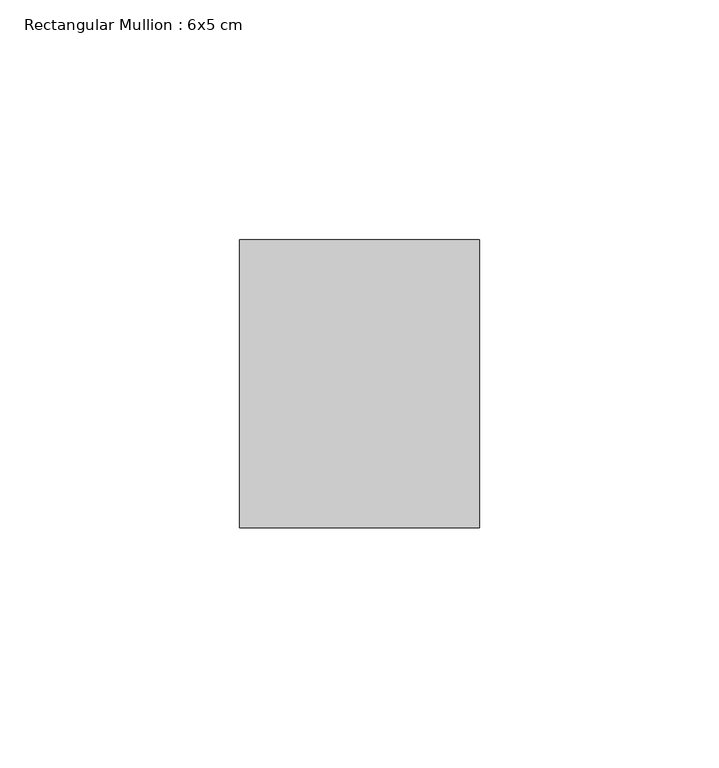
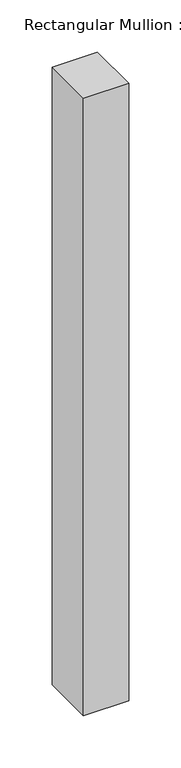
"""IFC4 building model written with IfcOpenShell, lengths in millimetres: member geometry, Rectangular Mullion : 6x5 cm."""

from ifc_helpers import new_model, si_unit, frame, origin, place, context, project, spatial, polyline, outline, extrude, source, transform, mapped, element, save


def rectangular_mullion_6x5_cm_2a4f21b8(model_context):
    return source(origin(), model_context, "Body", "SweptSolid", [
        extrude(outline(polyline([(0.0, 80.0), (0.0, 20.0), (-50.0, 20.0), (-50.0, 80.0), (0.0, 80.0)])), frame((0.0, 0.0, -722.8416151), z_axis=(0.0, 0.0, 1.0), x_axis=(1.0, 0.0, 0.0)), (0.0, 0.0, 1.0), 722.8416151),
    ])


if __name__ == "__main__":
    model = new_model("IFC4")
    model_context = context("Model", 3, world=origin())
    ifc_project = project(units=[si_unit("LENGTHUNIT", "METRE", prefix="MILLI")], contexts=[model_context])
    site = spatial("IfcSite", under=ifc_project)
    building = spatial("IfcBuilding", under=site)
    placement = place(None, origin())
    rectangular_mullion_6x5_cm_shape = rectangular_mullion_6x5_cm_2a4f21b8(model_context)
    element("IfcMember", 1, ObjectType="Rectangular Mullion : 6x5 cm", at=placement, inside=building, context=model_context, shape_type="MappedRepresentation", body=[
        mapped(rectangular_mullion_6x5_cm_shape, transform((0.0, 0.0, 0.0), x_axis=(1.0, 0.0, 0.0), y_axis=(0.0, 1.0, 0.0), z_axis=(0.0, 0.0, 1.0))),
    ])
    save(model, "model.ifc")
